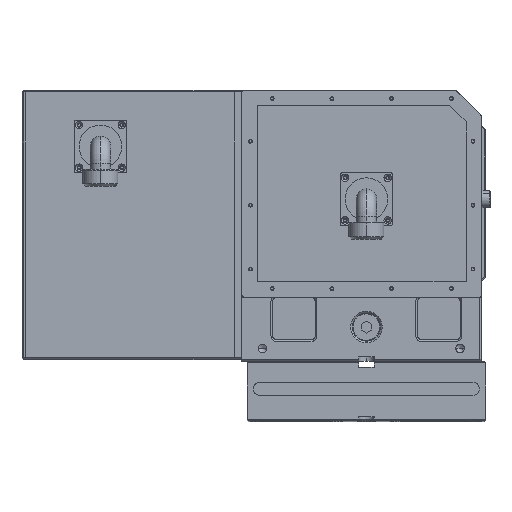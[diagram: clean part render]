
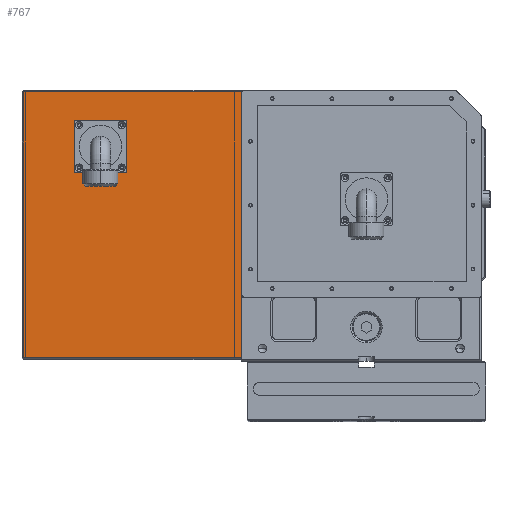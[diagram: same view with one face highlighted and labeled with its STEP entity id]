
A CAD part, top view. The second image highlights one B-rep face of the part: STEP entity #767.
In plain terms, the highlighted planar face has unit normal (0, 0, 1).
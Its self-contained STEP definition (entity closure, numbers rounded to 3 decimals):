
#708 = LINE ( 'NONE', #28363, #42984 ) ;
#767 = ADVANCED_FACE ( 'NONE', ( #26448, #33690, #69078, #83162, #48664, #67288 ), #55019, .F. ) ;
#773 = EDGE_LOOP ( 'NONE', ( #28551, #46314 ) ) ;
#2075 = AXIS2_PLACEMENT_3D ( 'NONE', #74933, #62164, #60829 ) ;
#2104 = EDGE_CURVE ( 'NONE', #84082, #34893, #35750, .T. ) ;
#2436 = EDGE_CURVE ( 'NONE', #65915, #75439, #60213, .T. ) ;
#2905 = CIRCLE ( 'NONE', #14505, 2.025 ) ;
#3473 = CARTESIAN_POINT ( 'NONE',  ( -287., 68., 173. ) ) ;
#4218 = CARTESIAN_POINT ( 'NONE',  ( -289.025, 118., 173. ) ) ;
#4625 = CARTESIAN_POINT ( 'NONE',  ( -334.975, 68., 173. ) ) ;
#4665 = VERTEX_POINT ( 'NONE', #53980 ) ;
#5014 = CARTESIAN_POINT ( 'NONE',  ( -284.975, 118., 173. ) ) ;
#6198 = CIRCLE ( 'NONE', #56886, 25. ) ;
#6212 = EDGE_LOOP ( 'NONE', ( #45112, #74973 ) ) ;
#7849 = ORIENTED_EDGE ( 'NONE', *, *, #65633, .T. ) ;
#8541 = ORIENTED_EDGE ( 'NONE', *, *, #74232, .T. ) ;
#8636 = LINE ( 'NONE', #21782, #28940 ) ;
#11427 = EDGE_LOOP ( 'NONE', ( #78357, #45297 ) ) ;
#11558 = VERTEX_POINT ( 'NONE', #77267 ) ;
#12201 = CIRCLE ( 'NONE', #77437, 2.025 ) ;
#14505 = AXIS2_PLACEMENT_3D ( 'NONE', #45148, #17504, #80120 ) ;
#14671 = DIRECTION ( 'NONE',  ( 0., 0., 1. ) ) ;
#15925 = LINE ( 'NONE', #37639, #65373 ) ;
#16420 = EDGE_CURVE ( 'NONE', #62910, #44810, #2905, .T. ) ;
#16863 = CARTESIAN_POINT ( 'NONE',  ( -312., 93., 173. ) ) ;
#17393 = AXIS2_PLACEMENT_3D ( 'NONE', #34739, #29287, #27503 ) ;
#17504 = DIRECTION ( 'NONE',  ( 0., 0., 1. ) ) ;
#17671 = CARTESIAN_POINT ( 'NONE',  ( -284.975, 68., 173. ) ) ;
#19985 = CARTESIAN_POINT ( 'NONE',  ( -402., -155., 173. ) ) ;
#20517 = VERTEX_POINT ( 'NONE', #52376 ) ;
#20874 = LINE ( 'NONE', #35805, #82011 ) ;
#21782 = CARTESIAN_POINT ( 'NONE',  ( -404., 157., 173. ) ) ;
#25355 = ORIENTED_EDGE ( 'NONE', *, *, #50441, .F. ) ;
#26448 = FACE_BOUND ( 'NONE', #59318, .T. ) ;
#27503 = DIRECTION ( 'NONE',  ( 0., 1., 0. ) ) ;
#27746 = CARTESIAN_POINT ( 'NONE',  ( -334.975, 118., 173. ) ) ;
#28125 = CIRCLE ( 'NONE', #2075, 2.025 ) ;
#28363 = CARTESIAN_POINT ( 'NONE',  ( -147., 159., 173. ) ) ;
#28382 = EDGE_LOOP ( 'NONE', ( #46268, #25355 ) ) ;
#28551 = ORIENTED_EDGE ( 'NONE', *, *, #83781, .F. ) ;
#28940 = VECTOR ( 'NONE', #56703, 1000. ) ;
#29287 = DIRECTION ( 'NONE',  ( 0., 0., 1. ) ) ;
#29843 = DIRECTION ( 'NONE',  ( 1., 0., 0. ) ) ;
#29844 = EDGE_CURVE ( 'NONE', #44810, #62910, #28125, .T. ) ;
#30715 = DIRECTION ( 'NONE',  ( 1., 0., 0. ) ) ;
#31474 = CARTESIAN_POINT ( 'NONE',  ( -147., -155., 173. ) ) ;
#32472 = DIRECTION ( 'NONE',  ( 1., 0., 0. ) ) ;
#32703 = AXIS2_PLACEMENT_3D ( 'NONE', #36069, #56951, #57408 ) ;
#33690 = FACE_BOUND ( 'NONE', #6212, .T. ) ;
#33801 = VERTEX_POINT ( 'NONE', #19985 ) ;
#34539 = ORIENTED_EDGE ( 'NONE', *, *, #2436, .F. ) ;
#34739 = CARTESIAN_POINT ( 'NONE',  ( -312., 93., 173. ) ) ;
#34893 = VERTEX_POINT ( 'NONE', #50576 ) ;
#35750 = CIRCLE ( 'NONE', #87992, 2.025 ) ;
#35805 = CARTESIAN_POINT ( 'NONE',  ( -402., -157., 173. ) ) ;
#35939 = CARTESIAN_POINT ( 'NONE',  ( -337., 68., 173. ) ) ;
#36069 = CARTESIAN_POINT ( 'NONE',  ( -337., 118., 173. ) ) ;
#36186 = DIRECTION ( 'NONE',  ( 0., 0., 1. ) ) ;
#37639 = CARTESIAN_POINT ( 'NONE',  ( -404., -155., 173. ) ) ;
#38364 = DIRECTION ( 'NONE',  ( 0., 0., 1. ) ) ;
#38583 = DIRECTION ( 'NONE',  ( 0., 0., 1. ) ) ;
#39609 = DIRECTION ( 'NONE',  ( 0., 0., 1. ) ) ;
#41185 = VERTEX_POINT ( 'NONE', #82397 ) ;
#42126 = ORIENTED_EDGE ( 'NONE', *, *, #59529, .T. ) ;
#42279 = DIRECTION ( 'NONE',  ( 1., 0., 0. ) ) ;
#42984 = VECTOR ( 'NONE', #56039, 1000. ) ;
#43475 = VERTEX_POINT ( 'NONE', #17671 ) ;
#44625 = ORIENTED_EDGE ( 'NONE', *, *, #60028, .F. ) ;
#44810 = VERTEX_POINT ( 'NONE', #5014 ) ;
#45112 = ORIENTED_EDGE ( 'NONE', *, *, #29844, .F. ) ;
#45148 = CARTESIAN_POINT ( 'NONE',  ( -287., 118., 173. ) ) ;
#45297 = ORIENTED_EDGE ( 'NONE', *, *, #64694, .F. ) ;
#45843 = DIRECTION ( 'NONE',  ( 0., 1., 0. ) ) ;
#46268 = ORIENTED_EDGE ( 'NONE', *, *, #2104, .F. ) ;
#46314 = ORIENTED_EDGE ( 'NONE', *, *, #48109, .F. ) ;
#47237 = EDGE_CURVE ( 'NONE', #20517, #84318, #6198, .T. ) ;
#47312 = DIRECTION ( 'NONE',  ( 0., 0., -1. ) ) ;
#48109 = EDGE_CURVE ( 'NONE', #4665, #43475, #12201, .T. ) ;
#48664 = FACE_BOUND ( 'NONE', #11427, .T. ) ;
#50441 = EDGE_CURVE ( 'NONE', #34893, #84082, #60214, .T. ) ;
#50576 = CARTESIAN_POINT ( 'NONE',  ( -339.025, 68., 173. ) ) ;
#50599 = EDGE_LOOP ( 'NONE', ( #79559, #42126, #8541, #7849 ) ) ;
#51328 = EDGE_CURVE ( 'NONE', #82007, #11558, #708, .T. ) ;
#52376 = CARTESIAN_POINT ( 'NONE',  ( -312., 118., 173. ) ) ;
#53980 = CARTESIAN_POINT ( 'NONE',  ( -289.025, 68., 173. ) ) ;
#55019 = PLANE ( 'NONE',  #57257 ) ;
#56039 = DIRECTION ( 'NONE',  ( 0., 1., 0. ) ) ;
#56703 = DIRECTION ( 'NONE',  ( -1., 0., 0. ) ) ;
#56886 = AXIS2_PLACEMENT_3D ( 'NONE', #16863, #38583, #45843 ) ;
#56951 = DIRECTION ( 'NONE',  ( 0., 0., 1. ) ) ;
#57257 = AXIS2_PLACEMENT_3D ( 'NONE', #67745, #47312, #60923 ) ;
#57408 = DIRECTION ( 'NONE',  ( 1., 0., 0. ) ) ;
#59318 = EDGE_LOOP ( 'NONE', ( #44625, #34539 ) ) ;
#59424 = AXIS2_PLACEMENT_3D ( 'NONE', #86090, #38364, #30715 ) ;
#59529 = EDGE_CURVE ( 'NONE', #11558, #41185, #8636, .T. ) ;
#60028 = EDGE_CURVE ( 'NONE', #75439, #65915, #82602, .T. ) ;
#60213 = CIRCLE ( 'NONE', #32703, 2.025 ) ;
#60214 = CIRCLE ( 'NONE', #80526, 2.025 ) ;
#60829 = DIRECTION ( 'NONE',  ( 1., 0., 0. ) ) ;
#60923 = DIRECTION ( 'NONE',  ( 0., -1., 0. ) ) ;
#62164 = DIRECTION ( 'NONE',  ( 0., 0., 1. ) ) ;
#62910 = VERTEX_POINT ( 'NONE', #4218 ) ;
#63997 = DIRECTION ( 'NONE',  ( 1., 0., 0. ) ) ;
#64310 = CARTESIAN_POINT ( 'NONE',  ( -337., 68., 173. ) ) ;
#64694 = EDGE_CURVE ( 'NONE', #84318, #20517, #72458, .T. ) ;
#65373 = VECTOR ( 'NONE', #63997, 1000. ) ;
#65633 = EDGE_CURVE ( 'NONE', #33801, #82007, #15925, .T. ) ;
#65915 = VERTEX_POINT ( 'NONE', #74859 ) ;
#67288 = FACE_OUTER_BOUND ( 'NONE', #50599, .T. ) ;
#67745 = CARTESIAN_POINT ( 'NONE',  ( -404., 159., 173. ) ) ;
#68205 = CARTESIAN_POINT ( 'NONE',  ( -287., 68., 173. ) ) ;
#69078 = FACE_BOUND ( 'NONE', #773, .T. ) ;
#70313 = CARTESIAN_POINT ( 'NONE',  ( -312., 68., 173. ) ) ;
#72458 = CIRCLE ( 'NONE', #17393, 25. ) ;
#72888 = DIRECTION ( 'NONE',  ( 0., 0., 1. ) ) ;
#74232 = EDGE_CURVE ( 'NONE', #41185, #33801, #20874, .T. ) ;
#74859 = CARTESIAN_POINT ( 'NONE',  ( -339.025, 118., 173. ) ) ;
#74933 = CARTESIAN_POINT ( 'NONE',  ( -287., 118., 173. ) ) ;
#74973 = ORIENTED_EDGE ( 'NONE', *, *, #16420, .F. ) ;
#75439 = VERTEX_POINT ( 'NONE', #27746 ) ;
#77267 = CARTESIAN_POINT ( 'NONE',  ( -147., 157., 173. ) ) ;
#77437 = AXIS2_PLACEMENT_3D ( 'NONE', #3473, #72888, #32472 ) ;
#78039 = DIRECTION ( 'NONE',  ( 0., -1., 0. ) ) ;
#78357 = ORIENTED_EDGE ( 'NONE', *, *, #47237, .F. ) ;
#79559 = ORIENTED_EDGE ( 'NONE', *, *, #51328, .T. ) ;
#80120 = DIRECTION ( 'NONE',  ( 1., 0., 0. ) ) ;
#80526 = AXIS2_PLACEMENT_3D ( 'NONE', #35939, #14671, #42279 ) ;
#80569 = AXIS2_PLACEMENT_3D ( 'NONE', #68205, #39609, #88657 ) ;
#82007 = VERTEX_POINT ( 'NONE', #31474 ) ;
#82011 = VECTOR ( 'NONE', #78039, 1000. ) ;
#82397 = CARTESIAN_POINT ( 'NONE',  ( -402., 157., 173. ) ) ;
#82602 = CIRCLE ( 'NONE', #59424, 2.025 ) ;
#83162 = FACE_BOUND ( 'NONE', #28382, .T. ) ;
#83781 = EDGE_CURVE ( 'NONE', #43475, #4665, #86340, .T. ) ;
#84082 = VERTEX_POINT ( 'NONE', #4625 ) ;
#84318 = VERTEX_POINT ( 'NONE', #70313 ) ;
#86090 = CARTESIAN_POINT ( 'NONE',  ( -337., 118., 173. ) ) ;
#86340 = CIRCLE ( 'NONE', #80569, 2.025 ) ;
#87992 = AXIS2_PLACEMENT_3D ( 'NONE', #64310, #36186, #29843 ) ;
#88657 = DIRECTION ( 'NONE',  ( 1., 0., 0. ) ) ;
